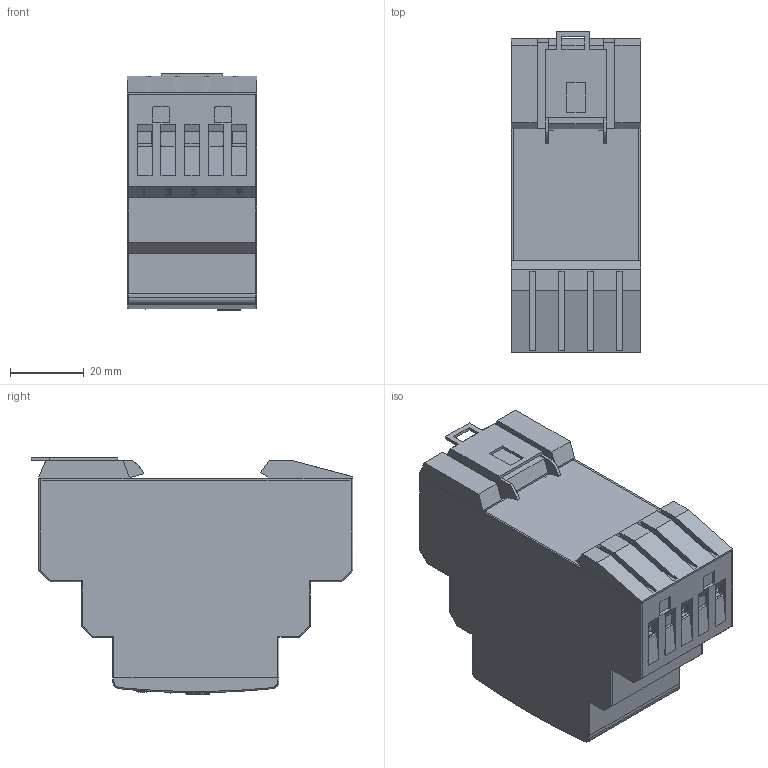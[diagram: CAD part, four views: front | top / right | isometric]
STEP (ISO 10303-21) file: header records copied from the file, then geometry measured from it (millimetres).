
FILE_DESCRIPTION(('STEP AP214'),'2;1');
FILE_NAME('KFE300_260110-skin-OK.stp','2010-02-17T16:16:01',(''),(''),'2007.1.106','THINKDESIGN','');
FILE_SCHEMA(('AUTOMOTIVE_DESIGN'));
Products named in the file (1): None
Bounding box: 35 x 87.1 x 64 mm (x, y, z)
Surface area: 32428 mm2 (no closed solid volume)
Topology: 0 solids, 0 shells, 909 faces, 5031 edges, 5033 vertices
Faces by surface type: plane 611, cylinder 180, bspline 118
Entity records: 58872 total; most frequent: CARTESIAN_POINT 24130, DIRECTION 5703, COMPOSITE_CURVE_SEGMENT 5025, TRIMMED_CURVE 3814, VECTOR 3507, LINE 3507, AXIS2_PLACEMENT_3D 1098, STYLED_ITEM 913
